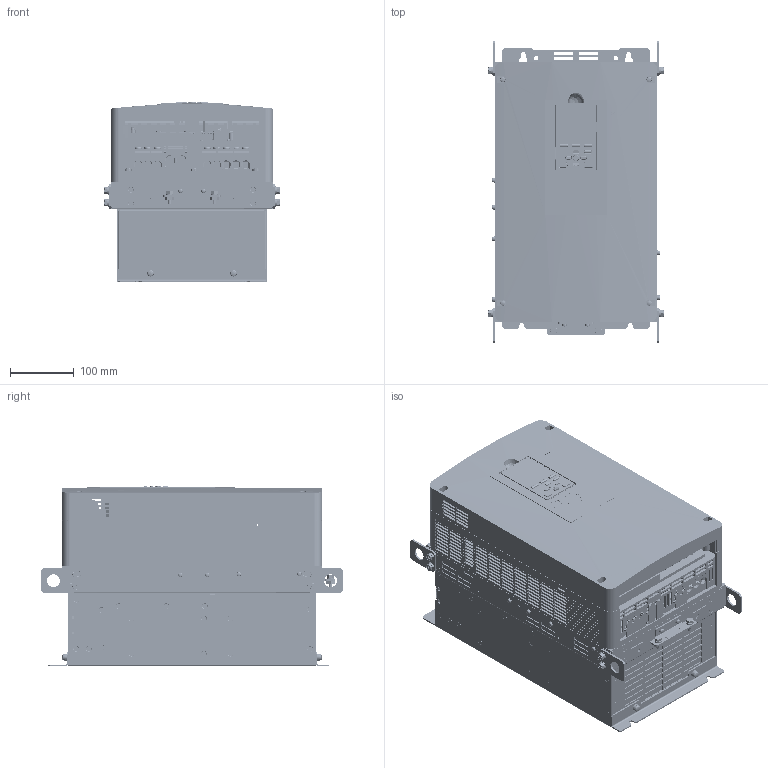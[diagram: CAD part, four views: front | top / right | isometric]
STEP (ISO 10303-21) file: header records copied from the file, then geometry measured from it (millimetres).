
FILE_DESCRIPTION((''),'2;1');
FILE_NAME('71617-GA70_C_4089_AB_B_Q_A_ASM','2017-06-08T',('t-hara'),('YASKAWA ELECTRIC CORCORATION'),'PRO/ENGINEER BY PARAMETRIC TECHNOLOGY CORPORATION, 2015110','PRO/ENGINEER BY PARAMETRIC TECHNOLOGY CORPORATION, 2015110','');
FILE_SCHEMA(('AUTOMOTIVE_DESIGN { 1 0 10303 214 1 1 1 1 }'));
Products named in the file (19): LAY-GA70_4089; GA70_4089_BODY; GA70_4089_MTG_PLATE_BOTTOM; GEM_OPEN_SCREW_M6X14; GA70_4089_MTG_PLATE_TOP; GA70_4089_FAN; GA70_4089_FAN_COVER; GEM_OPEN_SCREW_M4X25; GA70_ALL_TB_TYPEB; GEM_OPEN_SCREW_M3P5X6; GEM_OPEN_SCREW_M3X15; GA70_ALL_LED; GA70_ALL_CONNECTOR; GA70_4089_IP20_COVER; GA70_4089_FP; GA70_ALL_USB_COVER; GA70_ALL_LCD_OPERATOR; GA70_4089_SCREW_GND; 71617-GA70_C_4089_AB_B_Q_A_ASM
Assembly tree (24 placements, depth 2):
  71617-GA70_C_4089_AB_B_Q_A_ASM
    LAY-GA70_4089
    GA70_4089_BODY
    GA70_4089_MTG_PLATE_BOTTOM
    GEM_OPEN_SCREW_M6X14  x4
    GA70_4089_MTG_PLATE_TOP
    GA70_4089_FAN  x2
    GA70_4089_FAN_COVER
    GEM_OPEN_SCREW_M4X25  x2
    GA70_ALL_TB_TYPEB
    GEM_OPEN_SCREW_M3P5X6
    GEM_OPEN_SCREW_M3X15
    GA70_ALL_LED
    GA70_ALL_CONNECTOR
    GA70_4089_IP20_COVER
    GA70_4089_FP
    GA70_ALL_USB_COVER
    GA70_ALL_LCD_OPERATOR
    GA70_4089_SCREW_GND  x2
Bounding box: 274.4 x 474 x 282.5 mm (x, y, z)
Volume: 21503177.7 mm3; surface area: 1470215.6 mm2
Topology: 28 solids, 58 shells, 14932 faces, 39786 edges, 25677 vertices
Faces by surface type: plane 11059, cylinder 2625, cone 651, torus 279, bspline 155, extrusion 87, sphere 76
Entity records: 537100 total; most frequent: CARTESIAN_POINT 98841, ORIENTED_EDGE 75818, DIRECTION 69915, EDGE_CURVE 37909, VECTOR 30455, LINE 30392, VERTEX_POINT 24536, AXIS2_PLACEMENT_3D 19730
